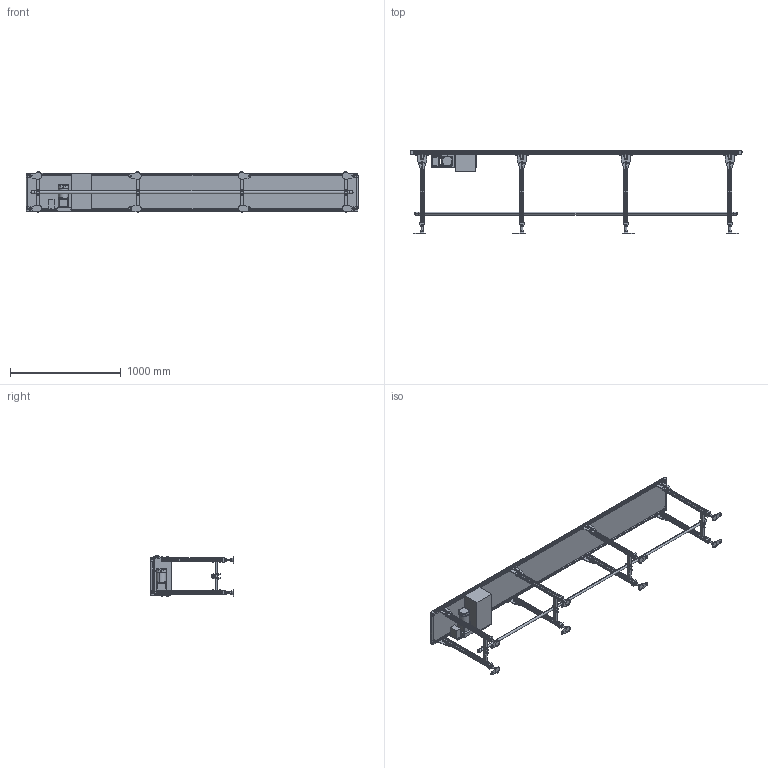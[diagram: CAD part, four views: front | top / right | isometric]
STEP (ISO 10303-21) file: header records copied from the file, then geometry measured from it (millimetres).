
FILE_DESCRIPTION( (''), '2;1');
FILE_NAME ('MM2K-309-300-300-K-180-O.stp','2025-02-17T13:24:05',(''),(''),'spGate 20.6.2 (****-****-****-****)','','');
FILE_SCHEMA (('AUTOMOTIVE_DESIGN'));
Length unit declared in the file: millimetre
Products named in the file (79): NewModel; MMX2K-90-300-3000; TEMP_X_T-prt0; TEMP_X_T-prt1; TEMP_X_T-prt2; TEMP_X_T-prt3; TEMP_X_T-prt4; TEMP_X_T-prt5; TEMP_X_T-prt6; TEMP_X_T-prt7; TEMP_X_T-prt8; TEMP_X_T-prt9; TEMP_X_T-prt10; TEMP_X_T-prt11; TEMP_X_T-prt12; TEMP_X_T-prt13; TEMP_X_T-prt14; TEMP_X_T-prt15; TEMP_X_T-prt16; TEMP_X_T-prt17; TEMP_X_T-prt18; TEMP_X_T-prt19; TEMP_X_T-prt20; TEMP_X_T-prt21; TEMP_X_T-prt22; TEMP_X_T-prt23; TEMP_X_T-prt24; TEMP_X_T-prt25; TEMP_X_T-prt26; TEMP_X_T-prt27; TEMP_X_T-prt28; TEMP_X_T-prt29; TEMP_X_T-prt30; TEMP_X_T-prt31; TEMP_X_T-prt32; TEMP_X_T-prt33; TEMP_X_T-prt34; TEMP_X_T-prt35; TEMP_X_T-prt36; TEMP_X_T-prt37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
Assembly tree (78 placements, depth 3):
  NewModel
    MMX2K-90-300-3000
      TEMP_X_T-prt0
      TEMP_X_T-prt1
      TEMP_X_T-prt2
      TEMP_X_T-prt3
      TEMP_X_T-prt4
      TEMP_X_T-prt5
      TEMP_X_T-prt6
      TEMP_X_T-prt7
      TEMP_X_T-prt8
      TEMP_X_T-prt9
      TEMP_X_T-prt10
      TEMP_X_T-prt11
      TEMP_X_T-prt12
      TEMP_X_T-prt13
      TEMP_X_T-prt14
      TEMP_X_T-prt15
      TEMP_X_T-prt16
      TEMP_X_T-prt17
      TEMP_X_T-prt18
      TEMP_X_T-prt19
      TEMP_X_T-prt20
      TEMP_X_T-prt21
      TEMP_X_T-prt22
      TEMP_X_T-prt23
      TEMP_X_T-prt24
      TEMP_X_T-prt25
      TEMP_X_T-prt26
      TEMP_X_T-prt27
      TEMP_X_T-prt28
      TEMP_X_T-prt29
      TEMP_X_T-prt30
      TEMP_X_T-prt31
      TEMP_X_T-prt32
      TEMP_X_T-prt33
      TEMP_X_T-prt34
      TEMP_X_T-prt35
      TEMP_X_T-prt36
      TEMP_X_T-prt37
      TEMP_X_T-prt38
      TEMP_X_T-prt39
      TEMP_X_T-prt40
      TEMP_X_T-prt41
      TEMP_X_T-prt42
      TEMP_X_T-prt43
      TEMP_X_T-prt44
      TEMP_X_T-prt45
      TEMP_X_T-prt46
      TEMP_X_T-prt47
      TEMP_X_T-prt48
      TEMP_X_T-prt49
      TEMP_X_T-prt50
      TEMP_X_T-prt51
      TEMP_X_T-prt52
      TEMP_X_T-prt53
      TEMP_X_T-prt54
      TEMP_X_T-prt55
      TEMP_X_T-prt56
      TEMP_X_T-prt57
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Bounding box: 3001.6 x 752.8 x 364.11 mm (x, y, z)
Volume: 26368870 mm3; surface area: 9006784.8 mm2
Topology: 77 solids, 77 shells, 3391 faces, 8636 edges, 5553 vertices
Faces by surface type: plane 2343, cylinder 825, bspline 223
Entity records: 175198 total; most frequent: CARTESIAN_POINT 22779, ORIENTED_EDGE 17252, DIRECTION 16105, COLOUR_RGB 12094, PRESENTATION_STYLE_ASSIGNMENT 12094, STYLED_ITEM 12094, EDGE_CURVE 8626, DRAUGHTING_PRE_DEFINED_CURVE_FONT 8626
